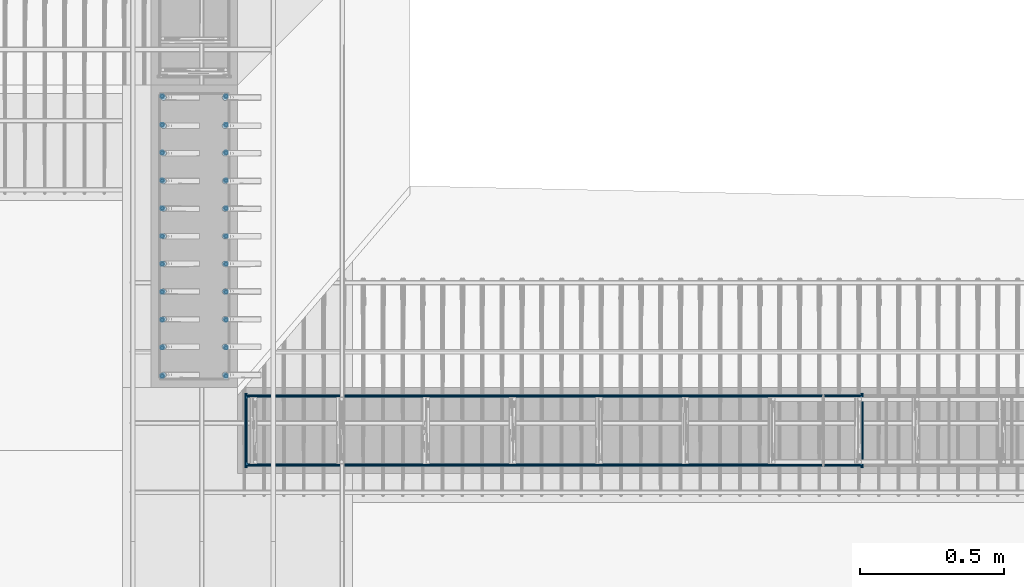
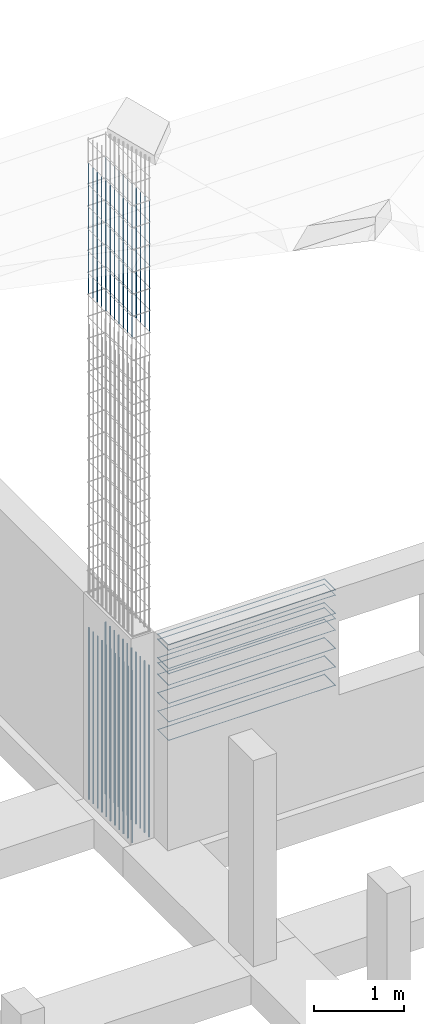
# One storey, part 13 of 15: 4 reinforcing bars.
"""IFC4 building model written with IfcOpenShell, lengths in metres."""

from ifc_helpers import new_model, entity, si_unit, origin_with_axes, place, context, project, spatial, source, transform, mapped, element, save


model = new_model("IFC4")

# Units and contexts
model_context = context("Model", 3, precision=1e-05, world=origin_with_axes())
ifc_project = project(units=[si_unit("LENGTHUNIT", "METRE"), si_unit("AREAUNIT", "SQUARE_METRE"), si_unit("VOLUMEUNIT", "CUBIC_METRE"), si_unit("MASSUNIT", "GRAM", prefix="KILO"), si_unit("TIMEUNIT", "SECOND"), si_unit("PLANEANGLEUNIT", "RADIAN"), si_unit("SOLIDANGLEUNIT", "STERADIAN"), si_unit("THERMODYNAMICTEMPERATUREUNIT", "DEGREE_CELSIUS")], contexts=[model_context])

# Site, building, storey
placement_1 = place(None, origin_with_axes())
site = spatial("IfcSite", under=ifc_project, at=placement_1, Name="Italia", CompositionType="ELEMENT")
building = spatial("IfcBuilding", under=site, at=placement_1, Name="Bifamiliare", CompositionType="ELEMENT")
storey = spatial("IfcBuildingStorey", under=building, at=placement_1, Name="Storey 0", CompositionType="ELEMENT", Elevation=0.0)

# Reinforcing bars
shared_shape_1 = source(origin_with_axes(), model_context, "Body", "AdvancedSweptSolid", [
    entity("IfcSweptDiskSolid", entity("IfcIndexedPolyCurve", entity("IfcCartesianPointList3D", [[10.757, 12.557, 0.0], [10.757, 12.557, 0.466667]]), [entity("IfcLineIndex", [1, 2])], False), 0.01),
])
placement_2 = place(placement_1, origin_with_axes())
reinforcing_bar_1_placement = place(placement_2, origin_with_axes())
element("IfcReinforcingBar", 1, at=reinforcing_bar_1_placement, inside=storey, BarLength=0.466667, CrossSectionArea=0.00031416, NominalDiameter=0.02, context=model_context, shape_type="MappedRepresentation", body=[
    mapped(shared_shape_1, transform((0.0, -0.964001, 0.933333), x_axis=(1.0, 0.0, 0.0), y_axis=(0.0, 1.0, 0.0), z_axis=(0.0, 0.0, 1.0), scale=1.0)),
    mapped(shared_shape_1, transform((0.0, -0.964001, 0.466668), x_axis=(1.0, 0.0, 0.0), y_axis=(0.0, 1.0, 0.0), z_axis=(0.0, 0.0, 1.0), scale=1.0)),
    mapped(shared_shape_1, transform((0.0, -0.964001, 0.0), x_axis=(1.0, 0.0, 0.0), y_axis=(0.0, 1.0, 0.0), z_axis=(0.0, 0.0, 1.0), scale=1.0)),
    mapped(shared_shape_1, transform((0.0, -0.578, 0.0), x_axis=(1.0, 0.0, 0.0), y_axis=(0.0, 1.0, 0.0), z_axis=(0.0, 0.0, 1.0), scale=1.0)),
    mapped(shared_shape_1, transform((0.0, -0.77, 0.0), x_axis=(1.0, 0.0, 0.0), y_axis=(0.0, 1.0, 0.0), z_axis=(0.0, 0.0, 1.0), scale=1.0)),
    mapped(shared_shape_1, transform((0.0, -0.674001, 0.0), x_axis=(1.0, 0.0, 0.0), y_axis=(0.0, 1.0, 0.0), z_axis=(0.0, 0.0, 1.0), scale=1.0)),
    mapped(shared_shape_1, transform((0.0, -0.866, 0.0), x_axis=(1.0, 0.0, 0.0), y_axis=(0.0, 1.0, 0.0), z_axis=(0.0, 0.0, 1.0), scale=1.0)),
    mapped(shared_shape_1, transform((-0.214001, -0.194, 0.466668), x_axis=(1.0, 0.0, 0.0), y_axis=(0.0, 1.0, 0.0), z_axis=(0.0, 0.0, 1.0), scale=1.0)),
    mapped(shared_shape_1, transform((-0.214001, 0.0, 0.466668), x_axis=(1.0, 0.0, 0.0), y_axis=(0.0, 1.0, 0.0), z_axis=(0.0, 0.0, 1.0), scale=1.0)),
    mapped(shared_shape_1, transform((-0.214001, -0.386001, 0.466668), x_axis=(1.0, 0.0, 0.0), y_axis=(0.0, 1.0, 0.0), z_axis=(0.0, 0.0, 1.0), scale=1.0)),
    mapped(shared_shape_1, transform((-0.214001, -0.0980005, 0.466668), x_axis=(1.0, 0.0, 0.0), y_axis=(0.0, 1.0, 0.0), z_axis=(0.0, 0.0, 1.0), scale=1.0)),
    mapped(shared_shape_1, transform((-0.214001, -0.29, 0.466668), x_axis=(1.0, 0.0, 0.0), y_axis=(0.0, 1.0, 0.0), z_axis=(0.0, 0.0, 1.0), scale=1.0)),
    mapped(shared_shape_1, transform((0.0, -0.194, 0.0), x_axis=(1.0, 0.0, 0.0), y_axis=(0.0, 1.0, 0.0), z_axis=(0.0, 0.0, 1.0), scale=1.0)),
    mapped(shared_shape_1, transform((-0.214001, -0.482, 0.466668), x_axis=(1.0, 0.0, 0.0), y_axis=(0.0, 1.0, 0.0), z_axis=(0.0, 0.0, 1.0), scale=1.0)),
    mapped(shared_shape_1, transform((-0.214001, -0.77, 0.466668), x_axis=(1.0, 0.0, 0.0), y_axis=(0.0, 1.0, 0.0), z_axis=(0.0, 0.0, 1.0), scale=1.0)),
    mapped(shared_shape_1, transform((0.0, -0.29, 0.0), x_axis=(1.0, 0.0, 0.0), y_axis=(0.0, 1.0, 0.0), z_axis=(0.0, 0.0, 1.0), scale=1.0)),
    mapped(shared_shape_1, transform((0.0, -0.0980005, 0.0), x_axis=(1.0, 0.0, 0.0), y_axis=(0.0, 1.0, 0.0), z_axis=(0.0, 0.0, 1.0), scale=1.0)),
    mapped(shared_shape_1, transform((0.0, -0.482, 0.0), x_axis=(1.0, 0.0, 0.0), y_axis=(0.0, 1.0, 0.0), z_axis=(0.0, 0.0, 1.0), scale=1.0)),
    mapped(shared_shape_1, transform((-0.214001, -0.482, 0.0), x_axis=(1.0, 0.0, 0.0), y_axis=(0.0, 1.0, 0.0), z_axis=(0.0, 0.0, 1.0), scale=1.0)),
    mapped(shared_shape_1, transform((-0.214001, -0.386001, 0.0), x_axis=(1.0, 0.0, 0.0), y_axis=(0.0, 1.0, 0.0), z_axis=(0.0, 0.0, 1.0), scale=1.0)),
    mapped(shared_shape_1, transform((0.0, -0.386001, 0.0), x_axis=(1.0, 0.0, 0.0), y_axis=(0.0, 1.0, 0.0), z_axis=(0.0, 0.0, 1.0), scale=1.0)),
    mapped(shared_shape_1, transform((-0.214001, -0.674001, 0.466668), x_axis=(1.0, 0.0, 0.0), y_axis=(0.0, 1.0, 0.0), z_axis=(0.0, 0.0, 1.0), scale=1.0)),
    mapped(shared_shape_1, transform((-0.214001, -0.29, 1.4), x_axis=(1.0, 0.0, 0.0), y_axis=(0.0, 1.0, 0.0), z_axis=(0.0, 0.0, 1.0), scale=1.0)),
    mapped(shared_shape_1, transform((-0.214001, -0.0980005, 0.0), x_axis=(1.0, 0.0, 0.0), y_axis=(0.0, 1.0, 0.0), z_axis=(0.0, 0.0, 1.0), scale=1.0)),
    mapped(shared_shape_1, transform((-0.214001, -0.29, 0.0), x_axis=(1.0, 0.0, 0.0), y_axis=(0.0, 1.0, 0.0), z_axis=(0.0, 0.0, 1.0), scale=1.0)),
    mapped(shared_shape_1, transform((-0.214001, 0.0, 1.4), x_axis=(1.0, 0.0, 0.0), y_axis=(0.0, 1.0, 0.0), z_axis=(0.0, 0.0, 1.0), scale=1.0)),
    mapped(shared_shape_1, transform((-0.214001, -0.578, 0.466668), x_axis=(1.0, 0.0, 0.0), y_axis=(0.0, 1.0, 0.0), z_axis=(0.0, 0.0, 1.0), scale=1.0)),
    mapped(shared_shape_1, transform((0.0, 0.0, 0.0), x_axis=(1.0, 0.0, 0.0), y_axis=(0.0, 1.0, 0.0), z_axis=(0.0, 0.0, 1.0), scale=1.0)),
    mapped(shared_shape_1, transform((-0.214001, -0.866, 0.466668), x_axis=(1.0, 0.0, 0.0), y_axis=(0.0, 1.0, 0.0), z_axis=(0.0, 0.0, 1.0), scale=1.0)),
    mapped(shared_shape_1, transform((-0.214001, -0.194, 1.4), x_axis=(1.0, 0.0, 0.0), y_axis=(0.0, 1.0, 0.0), z_axis=(0.0, 0.0, 1.0), scale=1.0)),
    mapped(shared_shape_1, transform((-0.214001, -0.964001, 0.0), x_axis=(1.0, 0.0, 0.0), y_axis=(0.0, 1.0, 0.0), z_axis=(0.0, 0.0, 1.0), scale=1.0)),
    mapped(shared_shape_1, transform((0.0, -0.866, 0.466668), x_axis=(1.0, 0.0, 0.0), y_axis=(0.0, 1.0, 0.0), z_axis=(0.0, 0.0, 1.0), scale=1.0)),
    mapped(shared_shape_1, transform((-0.214001, -0.194, 0.0), x_axis=(1.0, 0.0, 0.0), y_axis=(0.0, 1.0, 0.0), z_axis=(0.0, 0.0, 1.0), scale=1.0)),
    mapped(shared_shape_1, transform((-0.214001, -0.0980005, 1.4), x_axis=(1.0, 0.0, 0.0), y_axis=(0.0, 1.0, 0.0), z_axis=(0.0, 0.0, 1.0), scale=1.0)),
    mapped(shared_shape_1, transform((-0.214001, -0.386001, 1.86667), x_axis=(1.0, 0.0, 0.0), y_axis=(0.0, 1.0, 0.0), z_axis=(0.0, 0.0, 1.0), scale=1.0)),
    mapped(shared_shape_1, transform((-0.214001, -0.29, 0.933333), x_axis=(1.0, 0.0, 0.0), y_axis=(0.0, 1.0, 0.0), z_axis=(0.0, 0.0, 1.0), scale=1.0)),
    mapped(shared_shape_1, transform((-0.214001, -0.964001, 1.86667), x_axis=(1.0, 0.0, 0.0), y_axis=(0.0, 1.0, 0.0), z_axis=(0.0, 0.0, 1.0), scale=1.0)),
    mapped(shared_shape_1, transform((-0.214001, -0.866, 0.0), x_axis=(1.0, 0.0, 0.0), y_axis=(0.0, 1.0, 0.0), z_axis=(0.0, 0.0, 1.0), scale=1.0)),
    mapped(shared_shape_1, transform((0.0, -0.77, 0.466668), x_axis=(1.0, 0.0, 0.0), y_axis=(0.0, 1.0, 0.0), z_axis=(0.0, 0.0, 1.0), scale=1.0)),
    mapped(shared_shape_1, transform((-0.214001, 0.0, 1.86667), x_axis=(1.0, 0.0, 0.0), y_axis=(0.0, 1.0, 0.0), z_axis=(0.0, 0.0, 1.0), scale=1.0)),
    mapped(shared_shape_1, transform((-0.214001, -0.674001, 0.0), x_axis=(1.0, 0.0, 0.0), y_axis=(0.0, 1.0, 0.0), z_axis=(0.0, 0.0, 1.0), scale=1.0)),
    mapped(shared_shape_1, transform((-0.214001, -0.29, 1.86667), x_axis=(1.0, 0.0, 0.0), y_axis=(0.0, 1.0, 0.0), z_axis=(0.0, 0.0, 1.0), scale=1.0)),
    mapped(shared_shape_1, transform((-0.214001, -0.866, 1.86667), x_axis=(1.0, 0.0, 0.0), y_axis=(0.0, 1.0, 0.0), z_axis=(0.0, 0.0, 1.0), scale=1.0)),
    mapped(shared_shape_1, transform((-0.214001, -0.674001, 1.86667), x_axis=(1.0, 0.0, 0.0), y_axis=(0.0, 1.0, 0.0), z_axis=(0.0, 0.0, 1.0), scale=1.0)),
    mapped(shared_shape_1, transform((-0.214001, -0.194, 0.933333), x_axis=(1.0, 0.0, 0.0), y_axis=(0.0, 1.0, 0.0), z_axis=(0.0, 0.0, 1.0), scale=1.0)),
    mapped(shared_shape_1, transform((-0.214001, -0.578, 0.933333), x_axis=(1.0, 0.0, 0.0), y_axis=(0.0, 1.0, 0.0), z_axis=(0.0, 0.0, 1.0), scale=1.0)),
    mapped(shared_shape_1, transform((-0.214001, -0.964001, 0.466668), x_axis=(1.0, 0.0, 0.0), y_axis=(0.0, 1.0, 0.0), z_axis=(0.0, 0.0, 1.0), scale=1.0)),
    mapped(shared_shape_1, transform((0.0, -0.866, 0.933333), x_axis=(1.0, 0.0, 0.0), y_axis=(0.0, 1.0, 0.0), z_axis=(0.0, 0.0, 1.0), scale=1.0)),
    mapped(shared_shape_1, transform((0.0, -0.77, 0.933333), x_axis=(1.0, 0.0, 0.0), y_axis=(0.0, 1.0, 0.0), z_axis=(0.0, 0.0, 1.0), scale=1.0)),
    mapped(shared_shape_1, transform((-0.214001, -0.77, 0.0), x_axis=(1.0, 0.0, 0.0), y_axis=(0.0, 1.0, 0.0), z_axis=(0.0, 0.0, 1.0), scale=1.0)),
    mapped(shared_shape_1, transform((0.0, -0.578, 0.466668), x_axis=(1.0, 0.0, 0.0), y_axis=(0.0, 1.0, 0.0), z_axis=(0.0, 0.0, 1.0), scale=1.0)),
    mapped(shared_shape_1, transform((0.0, -0.674001, 0.466668), x_axis=(1.0, 0.0, 0.0), y_axis=(0.0, 1.0, 0.0), z_axis=(0.0, 0.0, 1.0), scale=1.0)),
    mapped(shared_shape_1, transform((0.0, -0.578, 0.933333), x_axis=(1.0, 0.0, 0.0), y_axis=(0.0, 1.0, 0.0), z_axis=(0.0, 0.0, 1.0), scale=1.0)),
    mapped(shared_shape_1, transform((0.0, -0.674001, 0.933333), x_axis=(1.0, 0.0, 0.0), y_axis=(0.0, 1.0, 0.0), z_axis=(0.0, 0.0, 1.0), scale=1.0)),
    mapped(shared_shape_1, transform((-0.214001, -0.482, 1.4), x_axis=(1.0, 0.0, 0.0), y_axis=(0.0, 1.0, 0.0), z_axis=(0.0, 0.0, 1.0), scale=1.0)),
    mapped(shared_shape_1, transform((-0.214001, 0.0, 0.0), x_axis=(1.0, 0.0, 0.0), y_axis=(0.0, 1.0, 0.0), z_axis=(0.0, 0.0, 1.0), scale=1.0)),
    mapped(shared_shape_1, transform((-0.214001, -0.578, 0.0), x_axis=(1.0, 0.0, 0.0), y_axis=(0.0, 1.0, 0.0), z_axis=(0.0, 0.0, 1.0), scale=1.0)),
    mapped(shared_shape_1, transform((0.0, -0.194, 0.933333), x_axis=(1.0, 0.0, 0.0), y_axis=(0.0, 1.0, 0.0), z_axis=(0.0, 0.0, 1.0), scale=1.0)),
    mapped(shared_shape_1, transform((0.0, -0.0980005, 0.933333), x_axis=(1.0, 0.0, 0.0), y_axis=(0.0, 1.0, 0.0), z_axis=(0.0, 0.0, 1.0), scale=1.0)),
    mapped(shared_shape_1, transform((0.0, 0.0, 0.933333), x_axis=(1.0, 0.0, 0.0), y_axis=(0.0, 1.0, 0.0), z_axis=(0.0, 0.0, 1.0), scale=1.0)),
    mapped(shared_shape_1, transform((0.0, -0.386001, 0.933333), x_axis=(1.0, 0.0, 0.0), y_axis=(0.0, 1.0, 0.0), z_axis=(0.0, 0.0, 1.0), scale=1.0)),
    mapped(shared_shape_1, transform((0.0, -0.29, 0.933333), x_axis=(1.0, 0.0, 0.0), y_axis=(0.0, 1.0, 0.0), z_axis=(0.0, 0.0, 1.0), scale=1.0)),
    mapped(shared_shape_1, transform((0.0, -0.194, 0.466668), x_axis=(1.0, 0.0, 0.0), y_axis=(0.0, 1.0, 0.0), z_axis=(0.0, 0.0, 1.0), scale=1.0)),
    mapped(shared_shape_1, transform((0.0, -0.0980005, 0.466668), x_axis=(1.0, 0.0, 0.0), y_axis=(0.0, 1.0, 0.0), z_axis=(0.0, 0.0, 1.0), scale=1.0)),
    mapped(shared_shape_1, transform((0.0, -0.386001, 0.466668), x_axis=(1.0, 0.0, 0.0), y_axis=(0.0, 1.0, 0.0), z_axis=(0.0, 0.0, 1.0), scale=1.0)),
    mapped(shared_shape_1, transform((0.0, -0.29, 0.466668), x_axis=(1.0, 0.0, 0.0), y_axis=(0.0, 1.0, 0.0), z_axis=(0.0, 0.0, 1.0), scale=1.0)),
    mapped(shared_shape_1, transform((0.0, -0.482, 0.466668), x_axis=(1.0, 0.0, 0.0), y_axis=(0.0, 1.0, 0.0), z_axis=(0.0, 0.0, 1.0), scale=1.0)),
    mapped(shared_shape_1, transform((0.0, 0.0, 0.466668), x_axis=(1.0, 0.0, 0.0), y_axis=(0.0, 1.0, 0.0), z_axis=(0.0, 0.0, 1.0), scale=1.0)),
    mapped(shared_shape_1, transform((0.0, -0.482, 0.933333), x_axis=(1.0, 0.0, 0.0), y_axis=(0.0, 1.0, 0.0), z_axis=(0.0, 0.0, 1.0), scale=1.0)),
    mapped(shared_shape_1, transform((-0.214001, -0.194, 1.86667), x_axis=(1.0, 0.0, 0.0), y_axis=(0.0, 1.0, 0.0), z_axis=(0.0, 0.0, 1.0), scale=1.0)),
    mapped(shared_shape_1, transform((-0.214001, -0.0980005, 1.86667), x_axis=(1.0, 0.0, 0.0), y_axis=(0.0, 1.0, 0.0), z_axis=(0.0, 0.0, 1.0), scale=1.0)),
    mapped(shared_shape_1, transform((-0.214001, -0.482, 1.86667), x_axis=(1.0, 0.0, 0.0), y_axis=(0.0, 1.0, 0.0), z_axis=(0.0, 0.0, 1.0), scale=1.0)),
    mapped(shared_shape_1, transform((-0.214001, -0.578, 1.86667), x_axis=(1.0, 0.0, 0.0), y_axis=(0.0, 1.0, 0.0), z_axis=(0.0, 0.0, 1.0), scale=1.0)),
    mapped(shared_shape_1, transform((-0.214001, -0.386001, 0.933333), x_axis=(1.0, 0.0, 0.0), y_axis=(0.0, 1.0, 0.0), z_axis=(0.0, 0.0, 1.0), scale=1.0)),
    mapped(shared_shape_1, transform((-0.214001, -0.77, 1.86667), x_axis=(1.0, 0.0, 0.0), y_axis=(0.0, 1.0, 0.0), z_axis=(0.0, 0.0, 1.0), scale=1.0)),
    mapped(shared_shape_1, transform((-0.214001, -0.482, 0.933333), x_axis=(1.0, 0.0, 0.0), y_axis=(0.0, 1.0, 0.0), z_axis=(0.0, 0.0, 1.0), scale=1.0)),
    mapped(shared_shape_1, transform((0.0, -0.964001, 1.86667), x_axis=(1.0, 0.0, 0.0), y_axis=(0.0, 1.0, 0.0), z_axis=(0.0, 0.0, 1.0), scale=1.0)),
    mapped(shared_shape_1, transform((-0.214001, -0.77, 0.933333), x_axis=(1.0, 0.0, 0.0), y_axis=(0.0, 1.0, 0.0), z_axis=(0.0, 0.0, 1.0), scale=1.0)),
    mapped(shared_shape_1, transform((-0.214001, -0.386001, 1.4), x_axis=(1.0, 0.0, 0.0), y_axis=(0.0, 1.0, 0.0), z_axis=(0.0, 0.0, 1.0), scale=1.0)),
    mapped(shared_shape_1, transform((-0.214001, -0.964001, 0.933333), x_axis=(1.0, 0.0, 0.0), y_axis=(0.0, 1.0, 0.0), z_axis=(0.0, 0.0, 1.0), scale=1.0)),
    mapped(shared_shape_1, transform((0.0, -0.866, 1.4), x_axis=(1.0, 0.0, 0.0), y_axis=(0.0, 1.0, 0.0), z_axis=(0.0, 0.0, 1.0), scale=1.0)),
    mapped(shared_shape_1, transform((-0.214001, -0.964001, 1.4), x_axis=(1.0, 0.0, 0.0), y_axis=(0.0, 1.0, 0.0), z_axis=(0.0, 0.0, 1.0), scale=1.0)),
    mapped(shared_shape_1, transform((0.0, -0.866, 1.86667), x_axis=(1.0, 0.0, 0.0), y_axis=(0.0, 1.0, 0.0), z_axis=(0.0, 0.0, 1.0), scale=1.0)),
    mapped(shared_shape_1, transform((0.0, -0.964001, 1.4), x_axis=(1.0, 0.0, 0.0), y_axis=(0.0, 1.0, 0.0), z_axis=(0.0, 0.0, 1.0), scale=1.0)),
    mapped(shared_shape_1, transform((-0.214001, -0.0980005, 0.933333), x_axis=(1.0, 0.0, 0.0), y_axis=(0.0, 1.0, 0.0), z_axis=(0.0, 0.0, 1.0), scale=1.0)),
    mapped(shared_shape_1, transform((-0.214001, -0.674001, 0.933333), x_axis=(1.0, 0.0, 0.0), y_axis=(0.0, 1.0, 0.0), z_axis=(0.0, 0.0, 1.0), scale=1.0)),
    mapped(shared_shape_1, transform((-0.214001, -0.674001, 1.4), x_axis=(1.0, 0.0, 0.0), y_axis=(0.0, 1.0, 0.0), z_axis=(0.0, 0.0, 1.0), scale=1.0)),
    mapped(shared_shape_1, transform((-0.214001, 0.0, 0.933333), x_axis=(1.0, 0.0, 0.0), y_axis=(0.0, 1.0, 0.0), z_axis=(0.0, 0.0, 1.0), scale=1.0)),
    mapped(shared_shape_1, transform((-0.214001, -0.578, 1.4), x_axis=(1.0, 0.0, 0.0), y_axis=(0.0, 1.0, 0.0), z_axis=(0.0, 0.0, 1.0), scale=1.0)),
    mapped(shared_shape_1, transform((-0.214001, -0.866, 0.933333), x_axis=(1.0, 0.0, 0.0), y_axis=(0.0, 1.0, 0.0), z_axis=(0.0, 0.0, 1.0), scale=1.0)),
    mapped(shared_shape_1, transform((0.0, -0.0980005, 1.4), x_axis=(1.0, 0.0, 0.0), y_axis=(0.0, 1.0, 0.0), z_axis=(0.0, 0.0, 1.0), scale=1.0)),
    mapped(shared_shape_1, transform((0.0, -0.194, 1.4), x_axis=(1.0, 0.0, 0.0), y_axis=(0.0, 1.0, 0.0), z_axis=(0.0, 0.0, 1.0), scale=1.0)),
    mapped(shared_shape_1, transform((0.0, 0.0, 1.4), x_axis=(1.0, 0.0, 0.0), y_axis=(0.0, 1.0, 0.0), z_axis=(0.0, 0.0, 1.0), scale=1.0)),
    mapped(shared_shape_1, transform((0.0, -0.386001, 1.4), x_axis=(1.0, 0.0, 0.0), y_axis=(0.0, 1.0, 0.0), z_axis=(0.0, 0.0, 1.0), scale=1.0)),
    mapped(shared_shape_1, transform((0.0, -0.29, 1.4), x_axis=(1.0, 0.0, 0.0), y_axis=(0.0, 1.0, 0.0), z_axis=(0.0, 0.0, 1.0), scale=1.0)),
    mapped(shared_shape_1, transform((0.0, -0.674001, 1.4), x_axis=(1.0, 0.0, 0.0), y_axis=(0.0, 1.0, 0.0), z_axis=(0.0, 0.0, 1.0), scale=1.0)),
    mapped(shared_shape_1, transform((0.0, -0.77, 1.4), x_axis=(1.0, 0.0, 0.0), y_axis=(0.0, 1.0, 0.0), z_axis=(0.0, 0.0, 1.0), scale=1.0)),
    mapped(shared_shape_1, transform((0.0, -0.482, 1.4), x_axis=(1.0, 0.0, 0.0), y_axis=(0.0, 1.0, 0.0), z_axis=(0.0, 0.0, 1.0), scale=1.0)),
    mapped(shared_shape_1, transform((0.0, -0.578, 1.4), x_axis=(1.0, 0.0, 0.0), y_axis=(0.0, 1.0, 0.0), z_axis=(0.0, 0.0, 1.0), scale=1.0)),
    mapped(shared_shape_1, transform((-0.214001, -0.77, 1.4), x_axis=(1.0, 0.0, 0.0), y_axis=(0.0, 1.0, 0.0), z_axis=(0.0, 0.0, 1.0), scale=1.0)),
    mapped(shared_shape_1, transform((-0.214001, -0.866, 1.4), x_axis=(1.0, 0.0, 0.0), y_axis=(0.0, 1.0, 0.0), z_axis=(0.0, 0.0, 1.0), scale=1.0)),
    mapped(shared_shape_1, transform((0.0, -0.194, 1.86667), x_axis=(1.0, 0.0, 0.0), y_axis=(0.0, 1.0, 0.0), z_axis=(0.0, 0.0, 1.0), scale=1.0)),
    mapped(shared_shape_1, transform((0.0, -0.29, 1.86667), x_axis=(1.0, 0.0, 0.0), y_axis=(0.0, 1.0, 0.0), z_axis=(0.0, 0.0, 1.0), scale=1.0)),
    mapped(shared_shape_1, transform((0.0, 0.0, 1.86667), x_axis=(1.0, 0.0, 0.0), y_axis=(0.0, 1.0, 0.0), z_axis=(0.0, 0.0, 1.0), scale=1.0)),
    mapped(shared_shape_1, transform((0.0, -0.0980005, 1.86667), x_axis=(1.0, 0.0, 0.0), y_axis=(0.0, 1.0, 0.0), z_axis=(0.0, 0.0, 1.0), scale=1.0)),
    mapped(shared_shape_1, transform((0.0, -0.578, 1.86667), x_axis=(1.0, 0.0, 0.0), y_axis=(0.0, 1.0, 0.0), z_axis=(0.0, 0.0, 1.0), scale=1.0)),
    mapped(shared_shape_1, transform((0.0, -0.77, 1.86667), x_axis=(1.0, 0.0, 0.0), y_axis=(0.0, 1.0, 0.0), z_axis=(0.0, 0.0, 1.0), scale=1.0)),
    mapped(shared_shape_1, transform((0.0, -0.386001, 1.86667), x_axis=(1.0, 0.0, 0.0), y_axis=(0.0, 1.0, 0.0), z_axis=(0.0, 0.0, 1.0), scale=1.0)),
    mapped(shared_shape_1, transform((0.0, -0.482, 1.86667), x_axis=(1.0, 0.0, 0.0), y_axis=(0.0, 1.0, 0.0), z_axis=(0.0, 0.0, 1.0), scale=1.0)),
    mapped(shared_shape_1, transform((0.0, -0.674001, 1.86667), x_axis=(1.0, 0.0, 0.0), y_axis=(0.0, 1.0, 0.0), z_axis=(0.0, 0.0, 1.0), scale=1.0)),
])
shared_shape_2 = source(origin_with_axes(), model_context, "Body", "AdvancedSweptSolid", [
    entity("IfcSweptDiskSolid", entity("IfcIndexedPolyCurve", entity("IfcCartesianPointList3D", [[10.761, 12.561, 6.87095], [10.761, 12.561, 7.29428]]), [entity("IfcLineIndex", [1, 2])], False), 0.006),
])
reinforcing_bar_2_placement = place(placement_2, origin_with_axes())
element("IfcReinforcingBar", 2, at=reinforcing_bar_2_placement, inside=storey, BarLength=0.423334, CrossSectionArea=0.0001131, NominalDiameter=0.012, context=model_context, shape_type="MappedRepresentation", body=[
    mapped(shared_shape_2, transform((0.0, -0.971999, 0.0), x_axis=(1.0, 0.0, 0.0), y_axis=(0.0, 1.0, 0.0), z_axis=(0.0, 0.0, 1.0), scale=1.0)),
    mapped(shared_shape_2, transform((0.0, -0.873199, 0.0), x_axis=(1.0, 0.0, 0.0), y_axis=(0.0, 1.0, 0.0), z_axis=(0.0, 0.0, 1.0), scale=1.0)),
    mapped(shared_shape_2, transform((0.0, -0.679599, 0.0), x_axis=(1.0, 0.0, 0.0), y_axis=(0.0, 1.0, 0.0), z_axis=(0.0, 0.0, 1.0), scale=1.0)),
    mapped(shared_shape_2, transform((0.0, -0.582799, 0.0), x_axis=(1.0, 0.0, 0.0), y_axis=(0.0, 1.0, 0.0), z_axis=(0.0, 0.0, 1.0), scale=1.0)),
    mapped(shared_shape_2, transform((0.0, -0.389199, 0.0), x_axis=(1.0, 0.0, 0.0), y_axis=(0.0, 1.0, 0.0), z_axis=(0.0, 0.0, 1.0), scale=1.0)),
    mapped(shared_shape_2, transform((0.0, -0.776399, 0.0), x_axis=(1.0, 0.0, 0.0), y_axis=(0.0, 1.0, 0.0), z_axis=(0.0, 0.0, 1.0), scale=1.0)),
    mapped(shared_shape_2, transform((0.0, -0.0987988, 0.0), x_axis=(1.0, 0.0, 0.0), y_axis=(0.0, 1.0, 0.0), z_axis=(0.0, 0.0, 1.0), scale=1.0)),
    mapped(shared_shape_2, transform((0.0, -0.485999, 0.0), x_axis=(1.0, 0.0, 0.0), y_axis=(0.0, 1.0, 0.0), z_axis=(0.0, 0.0, 1.0), scale=1.0)),
    mapped(shared_shape_2, transform((0.0, -0.292399, 0.0), x_axis=(1.0, 0.0, 0.0), y_axis=(0.0, 1.0, 0.0), z_axis=(0.0, 0.0, 1.0), scale=1.0)),
    mapped(shared_shape_2, transform((0.0, -0.195599, 0.0), x_axis=(1.0, 0.0, 0.0), y_axis=(0.0, 1.0, 0.0), z_axis=(0.0, 0.0, 1.0), scale=1.0)),
    mapped(shared_shape_2, transform((0.0, 0.0, 0.0), x_axis=(1.0, 0.0, 0.0), y_axis=(0.0, 1.0, 0.0), z_axis=(0.0, 0.0, 1.0), scale=1.0)),
    mapped(shared_shape_2, transform((-0.221999, 0.0, 0.0), x_axis=(1.0, 0.0, 0.0), y_axis=(0.0, 1.0, 0.0), z_axis=(0.0, 0.0, 1.0), scale=1.0)),
    mapped(shared_shape_2, transform((-0.221999, -0.1956, 0.0), x_axis=(1.0, 0.0, 0.0), y_axis=(0.0, 1.0, 0.0), z_axis=(0.0, 0.0, 1.0), scale=1.0)),
    mapped(shared_shape_2, transform((-0.221999, -0.292399, 0.0), x_axis=(1.0, 0.0, 0.0), y_axis=(0.0, 1.0, 0.0), z_axis=(0.0, 0.0, 1.0), scale=1.0)),
    mapped(shared_shape_2, transform((-0.221999, -0.485999, 0.0), x_axis=(1.0, 0.0, 0.0), y_axis=(0.0, 1.0, 0.0), z_axis=(0.0, 0.0, 1.0), scale=1.0)),
    mapped(shared_shape_2, transform((-0.221999, -0.0987988, 0.0), x_axis=(1.0, 0.0, 0.0), y_axis=(0.0, 1.0, 0.0), z_axis=(0.0, 0.0, 1.0), scale=1.0)),
    mapped(shared_shape_2, transform((-0.221999, -0.7764, 0.0), x_axis=(1.0, 0.0, 0.0), y_axis=(0.0, 1.0, 0.0), z_axis=(0.0, 0.0, 1.0), scale=1.0)),
    mapped(shared_shape_2, transform((-0.221999, -0.389199, 0.0), x_axis=(1.0, 0.0, 0.0), y_axis=(0.0, 1.0, 0.0), z_axis=(0.0, 0.0, 1.0), scale=1.0)),
    mapped(shared_shape_2, transform((-0.221999, -0.582799, 0.0), x_axis=(1.0, 0.0, 0.0), y_axis=(0.0, 1.0, 0.0), z_axis=(0.0, 0.0, 1.0), scale=1.0)),
    mapped(shared_shape_2, transform((-0.221999, -0.679599, 0.0), x_axis=(1.0, 0.0, 0.0), y_axis=(0.0, 1.0, 0.0), z_axis=(0.0, 0.0, 1.0), scale=1.0)),
    mapped(shared_shape_2, transform((-0.221999, -0.873199, 0.0), x_axis=(1.0, 0.0, 0.0), y_axis=(0.0, 1.0, 0.0), z_axis=(0.0, 0.0, 1.0), scale=1.0)),
    mapped(shared_shape_2, transform((-0.221999, -0.971999, 0.0), x_axis=(1.0, 0.0, 0.0), y_axis=(0.0, 1.0, 0.0), z_axis=(0.0, 0.0, 1.0), scale=1.0)),
])
shared_shape_3 = source(origin_with_axes(), model_context, "Body", "AdvancedSweptSolid", [
    entity("IfcSweptDiskSolid", entity("IfcIndexedPolyCurve", entity("IfcCartesianPointList3D", [[10.761, 12.561, 7.29428], [10.761, 12.561, 7.74238]]), [entity("IfcLineIndex", [1, 2])], False), 0.006),
])
reinforcing_bar_3_placement = place(placement_2, origin_with_axes())
element("IfcReinforcingBar", 3, at=reinforcing_bar_3_placement, inside=storey, BarLength=0.448097, CrossSectionArea=0.0001131, NominalDiameter=0.012, context=model_context, shape_type="MappedRepresentation", body=[
    mapped(shared_shape_3, transform((0.0, -0.971999, 0.448097), x_axis=(1.0, 0.0, 0.0), y_axis=(0.0, 1.0, 0.0), z_axis=(0.0, 0.0, 1.0), scale=1.0)),
    mapped(shared_shape_3, transform((-0.221999, 0.0, 0.0), x_axis=(1.0, 0.0, 0.0), y_axis=(0.0, 1.0, 0.0), z_axis=(0.0, 0.0, 1.0), scale=1.0)),
    mapped(shared_shape_3, transform((-0.221999, -0.292399, 0.0), x_axis=(1.0, 0.0, 0.0), y_axis=(0.0, 1.0, 0.0), z_axis=(0.0, 0.0, 1.0), scale=1.0)),
    mapped(shared_shape_3, transform((-0.221999, -0.0987988, 0.0), x_axis=(1.0, 0.0, 0.0), y_axis=(0.0, 1.0, 0.0), z_axis=(0.0, 0.0, 1.0), scale=1.0)),
    mapped(shared_shape_3, transform((-0.221999, -0.1956, 0.0), x_axis=(1.0, 0.0, 0.0), y_axis=(0.0, 1.0, 0.0), z_axis=(0.0, 0.0, 1.0), scale=1.0)),
    mapped(shared_shape_3, transform((0.0, -0.971999, 0.0), x_axis=(1.0, 0.0, 0.0), y_axis=(0.0, 1.0, 0.0), z_axis=(0.0, 0.0, 1.0), scale=1.0)),
    mapped(shared_shape_3, transform((-0.221999, -0.292399, 0.896192), x_axis=(1.0, 0.0, 0.0), y_axis=(0.0, 1.0, 0.0), z_axis=(0.0, 0.0, 1.0), scale=1.0)),
    mapped(shared_shape_3, transform((-0.221999, 0.0, 0.896192), x_axis=(1.0, 0.0, 0.0), y_axis=(0.0, 1.0, 0.0), z_axis=(0.0, 0.0, 1.0), scale=1.0)),
    mapped(shared_shape_3, transform((0.0, -0.582799, 0.0), x_axis=(1.0, 0.0, 0.0), y_axis=(0.0, 1.0, 0.0), z_axis=(0.0, 0.0, 1.0), scale=1.0)),
    mapped(shared_shape_3, transform((-0.221999, -0.389199, 0.0), x_axis=(1.0, 0.0, 0.0), y_axis=(0.0, 1.0, 0.0), z_axis=(0.0, 0.0, 1.0), scale=1.0)),
    mapped(shared_shape_3, transform((-0.221999, -0.389199, 0.896192), x_axis=(1.0, 0.0, 0.0), y_axis=(0.0, 1.0, 0.0), z_axis=(0.0, 0.0, 1.0), scale=1.0)),
    mapped(shared_shape_3, transform((-0.221999, -0.485999, 0.0), x_axis=(1.0, 0.0, 0.0), y_axis=(0.0, 1.0, 0.0), z_axis=(0.0, 0.0, 1.0), scale=1.0)),
    mapped(shared_shape_3, transform((0.0, -0.485999, 0.0), x_axis=(1.0, 0.0, 0.0), y_axis=(0.0, 1.0, 0.0), z_axis=(0.0, 0.0, 1.0), scale=1.0)),
    mapped(shared_shape_3, transform((0.0, -0.195599, 0.0), x_axis=(1.0, 0.0, 0.0), y_axis=(0.0, 1.0, 0.0), z_axis=(0.0, 0.0, 1.0), scale=1.0)),
    mapped(shared_shape_3, transform((0.0, -0.679599, 0.0), x_axis=(1.0, 0.0, 0.0), y_axis=(0.0, 1.0, 0.0), z_axis=(0.0, 0.0, 1.0), scale=1.0)),
    mapped(shared_shape_3, transform((0.0, -0.389199, 0.0), x_axis=(1.0, 0.0, 0.0), y_axis=(0.0, 1.0, 0.0), z_axis=(0.0, 0.0, 1.0), scale=1.0)),
    mapped(shared_shape_3, transform((0.0, -0.0987988, 0.0), x_axis=(1.0, 0.0, 0.0), y_axis=(0.0, 1.0, 0.0), z_axis=(0.0, 0.0, 1.0), scale=1.0)),
    mapped(shared_shape_3, transform((-0.221999, -0.0987988, 0.896192), x_axis=(1.0, 0.0, 0.0), y_axis=(0.0, 1.0, 0.0), z_axis=(0.0, 0.0, 1.0), scale=1.0)),
    mapped(shared_shape_3, transform((0.0, -0.292399, 0.0), x_axis=(1.0, 0.0, 0.0), y_axis=(0.0, 1.0, 0.0), z_axis=(0.0, 0.0, 1.0), scale=1.0)),
    mapped(shared_shape_3, transform((0.0, -0.776399, 0.0), x_axis=(1.0, 0.0, 0.0), y_axis=(0.0, 1.0, 0.0), z_axis=(0.0, 0.0, 1.0), scale=1.0)),
    mapped(shared_shape_3, transform((-0.221999, -0.1956, 0.896192), x_axis=(1.0, 0.0, 0.0), y_axis=(0.0, 1.0, 0.0), z_axis=(0.0, 0.0, 1.0), scale=1.0)),
    mapped(shared_shape_3, transform((-0.221999, -0.485999, 0.896192), x_axis=(1.0, 0.0, 0.0), y_axis=(0.0, 1.0, 0.0), z_axis=(0.0, 0.0, 1.0), scale=1.0)),
    mapped(shared_shape_3, transform((0.0, 0.0, 0.0), x_axis=(1.0, 0.0, 0.0), y_axis=(0.0, 1.0, 0.0), z_axis=(0.0, 0.0, 1.0), scale=1.0)),
    mapped(shared_shape_3, transform((-0.221999, -0.873199, 0.896192), x_axis=(1.0, 0.0, 0.0), y_axis=(0.0, 1.0, 0.0), z_axis=(0.0, 0.0, 1.0), scale=1.0)),
    mapped(shared_shape_3, transform((-0.221999, -0.679599, 0.896192), x_axis=(1.0, 0.0, 0.0), y_axis=(0.0, 1.0, 0.0), z_axis=(0.0, 0.0, 1.0), scale=1.0)),
    mapped(shared_shape_3, transform((-0.221999, -0.582799, 0.0), x_axis=(1.0, 0.0, 0.0), y_axis=(0.0, 1.0, 0.0), z_axis=(0.0, 0.0, 1.0), scale=1.0)),
    mapped(shared_shape_3, transform((-0.221999, -0.873199, 0.0), x_axis=(1.0, 0.0, 0.0), y_axis=(0.0, 1.0, 0.0), z_axis=(0.0, 0.0, 1.0), scale=1.0)),
    mapped(shared_shape_3, transform((0.0, -0.873199, 0.0), x_axis=(1.0, 0.0, 0.0), y_axis=(0.0, 1.0, 0.0), z_axis=(0.0, 0.0, 1.0), scale=1.0)),
    mapped(shared_shape_3, transform((-0.221999, -0.971999, 0.896192), x_axis=(1.0, 0.0, 0.0), y_axis=(0.0, 1.0, 0.0), z_axis=(0.0, 0.0, 1.0), scale=1.0)),
    mapped(shared_shape_3, transform((-0.221999, -0.7764, 0.448097), x_axis=(1.0, 0.0, 0.0), y_axis=(0.0, 1.0, 0.0), z_axis=(0.0, 0.0, 1.0), scale=1.0)),
    mapped(shared_shape_3, transform((-0.221999, -0.7764, 0.0), x_axis=(1.0, 0.0, 0.0), y_axis=(0.0, 1.0, 0.0), z_axis=(0.0, 0.0, 1.0), scale=1.0)),
    mapped(shared_shape_3, transform((-0.221999, -0.971999, 0.448097), x_axis=(1.0, 0.0, 0.0), y_axis=(0.0, 1.0, 0.0), z_axis=(0.0, 0.0, 1.0), scale=1.0)),
    mapped(shared_shape_3, transform((-0.221999, -0.971999, 0.0), x_axis=(1.0, 0.0, 0.0), y_axis=(0.0, 1.0, 0.0), z_axis=(0.0, 0.0, 1.0), scale=1.0)),
    mapped(shared_shape_3, transform((0.0, -0.873199, 0.448097), x_axis=(1.0, 0.0, 0.0), y_axis=(0.0, 1.0, 0.0), z_axis=(0.0, 0.0, 1.0), scale=1.0)),
    mapped(shared_shape_3, transform((0.0, -0.679599, 0.448097), x_axis=(1.0, 0.0, 0.0), y_axis=(0.0, 1.0, 0.0), z_axis=(0.0, 0.0, 1.0), scale=1.0)),
    mapped(shared_shape_3, transform((0.0, -0.776399, 0.448097), x_axis=(1.0, 0.0, 0.0), y_axis=(0.0, 1.0, 0.0), z_axis=(0.0, 0.0, 1.0), scale=1.0)),
    mapped(shared_shape_3, transform((0.0, -0.873199, 0.896192), x_axis=(1.0, 0.0, 0.0), y_axis=(0.0, 1.0, 0.0), z_axis=(0.0, 0.0, 1.0), scale=1.0)),
    mapped(shared_shape_3, transform((-0.221999, -0.679599, 0.0), x_axis=(1.0, 0.0, 0.0), y_axis=(0.0, 1.0, 0.0), z_axis=(0.0, 0.0, 1.0), scale=1.0)),
    mapped(shared_shape_3, transform((0.0, -0.195599, 0.448097), x_axis=(1.0, 0.0, 0.0), y_axis=(0.0, 1.0, 0.0), z_axis=(0.0, 0.0, 1.0), scale=1.0)),
    mapped(shared_shape_3, transform((0.0, 0.0, 0.448097), x_axis=(1.0, 0.0, 0.0), y_axis=(0.0, 1.0, 0.0), z_axis=(0.0, 0.0, 1.0), scale=1.0)),
    mapped(shared_shape_3, transform((0.0, -0.0987988, 0.448097), x_axis=(1.0, 0.0, 0.0), y_axis=(0.0, 1.0, 0.0), z_axis=(0.0, 0.0, 1.0), scale=1.0)),
    mapped(shared_shape_3, transform((0.0, -0.292399, 0.448097), x_axis=(1.0, 0.0, 0.0), y_axis=(0.0, 1.0, 0.0), z_axis=(0.0, 0.0, 1.0), scale=1.0)),
    mapped(shared_shape_3, transform((0.0, -0.389199, 0.448097), x_axis=(1.0, 0.0, 0.0), y_axis=(0.0, 1.0, 0.0), z_axis=(0.0, 0.0, 1.0), scale=1.0)),
    mapped(shared_shape_3, transform((0.0, -0.485999, 0.448097), x_axis=(1.0, 0.0, 0.0), y_axis=(0.0, 1.0, 0.0), z_axis=(0.0, 0.0, 1.0), scale=1.0)),
    mapped(shared_shape_3, transform((0.0, -0.582799, 0.448097), x_axis=(1.0, 0.0, 0.0), y_axis=(0.0, 1.0, 0.0), z_axis=(0.0, 0.0, 1.0), scale=1.0)),
    mapped(shared_shape_3, transform((0.0, -0.971999, 0.896192), x_axis=(1.0, 0.0, 0.0), y_axis=(0.0, 1.0, 0.0), z_axis=(0.0, 0.0, 1.0), scale=1.0)),
    mapped(shared_shape_3, transform((-0.221999, -0.7764, 0.896192), x_axis=(1.0, 0.0, 0.0), y_axis=(0.0, 1.0, 0.0), z_axis=(0.0, 0.0, 1.0), scale=1.0)),
    mapped(shared_shape_3, transform((-0.221999, -0.873199, 0.448097), x_axis=(1.0, 0.0, 0.0), y_axis=(0.0, 1.0, 0.0), z_axis=(0.0, 0.0, 1.0), scale=1.0)),
    mapped(shared_shape_3, transform((0.0, -0.679599, 0.896192), x_axis=(1.0, 0.0, 0.0), y_axis=(0.0, 1.0, 0.0), z_axis=(0.0, 0.0, 1.0), scale=1.0)),
    mapped(shared_shape_3, transform((0.0, -0.776399, 0.896192), x_axis=(1.0, 0.0, 0.0), y_axis=(0.0, 1.0, 0.0), z_axis=(0.0, 0.0, 1.0), scale=1.0)),
    mapped(shared_shape_3, transform((-0.221999, -0.582799, 0.448097), x_axis=(1.0, 0.0, 0.0), y_axis=(0.0, 1.0, 0.0), z_axis=(0.0, 0.0, 1.0), scale=1.0)),
    mapped(shared_shape_3, transform((-0.221999, -0.292399, 0.448097), x_axis=(1.0, 0.0, 0.0), y_axis=(0.0, 1.0, 0.0), z_axis=(0.0, 0.0, 1.0), scale=1.0)),
    mapped(shared_shape_3, transform((-0.221999, -0.582799, 0.896192), x_axis=(1.0, 0.0, 0.0), y_axis=(0.0, 1.0, 0.0), z_axis=(0.0, 0.0, 1.0), scale=1.0)),
    mapped(shared_shape_3, transform((-0.221999, -0.485999, 0.448097), x_axis=(1.0, 0.0, 0.0), y_axis=(0.0, 1.0, 0.0), z_axis=(0.0, 0.0, 1.0), scale=1.0)),
    mapped(shared_shape_3, transform((-0.221999, -0.389199, 0.448097), x_axis=(1.0, 0.0, 0.0), y_axis=(0.0, 1.0, 0.0), z_axis=(0.0, 0.0, 1.0), scale=1.0)),
    mapped(shared_shape_3, transform((-0.221999, -0.679599, 0.448097), x_axis=(1.0, 0.0, 0.0), y_axis=(0.0, 1.0, 0.0), z_axis=(0.0, 0.0, 1.0), scale=1.0)),
    mapped(shared_shape_3, transform((0.0, -0.292399, 0.896192), x_axis=(1.0, 0.0, 0.0), y_axis=(0.0, 1.0, 0.0), z_axis=(0.0, 0.0, 1.0), scale=1.0)),
    mapped(shared_shape_3, transform((0.0, -0.389199, 0.896192), x_axis=(1.0, 0.0, 0.0), y_axis=(0.0, 1.0, 0.0), z_axis=(0.0, 0.0, 1.0), scale=1.0)),
    mapped(shared_shape_3, transform((0.0, -0.485999, 0.896192), x_axis=(1.0, 0.0, 0.0), y_axis=(0.0, 1.0, 0.0), z_axis=(0.0, 0.0, 1.0), scale=1.0)),
    mapped(shared_shape_3, transform((0.0, -0.582799, 0.896192), x_axis=(1.0, 0.0, 0.0), y_axis=(0.0, 1.0, 0.0), z_axis=(0.0, 0.0, 1.0), scale=1.0)),
    mapped(shared_shape_3, transform((-0.221999, -0.1956, 0.448097), x_axis=(1.0, 0.0, 0.0), y_axis=(0.0, 1.0, 0.0), z_axis=(0.0, 0.0, 1.0), scale=1.0)),
    mapped(shared_shape_3, transform((0.0, -0.0987988, 0.896192), x_axis=(1.0, 0.0, 0.0), y_axis=(0.0, 1.0, 0.0), z_axis=(0.0, 0.0, 1.0), scale=1.0)),
    mapped(shared_shape_3, transform((0.0, -0.195599, 0.896192), x_axis=(1.0, 0.0, 0.0), y_axis=(0.0, 1.0, 0.0), z_axis=(0.0, 0.0, 1.0), scale=1.0)),
    mapped(shared_shape_3, transform((-0.221999, -0.0987988, 0.448097), x_axis=(1.0, 0.0, 0.0), y_axis=(0.0, 1.0, 0.0), z_axis=(0.0, 0.0, 1.0), scale=1.0)),
    mapped(shared_shape_3, transform((0.0, 0.0, 0.896192), x_axis=(1.0, 0.0, 0.0), y_axis=(0.0, 1.0, 0.0), z_axis=(0.0, 0.0, 1.0), scale=1.0)),
    mapped(shared_shape_3, transform((-0.221999, 0.0, 0.448097), x_axis=(1.0, 0.0, 0.0), y_axis=(0.0, 1.0, 0.0), z_axis=(0.0, 0.0, 1.0), scale=1.0)),
])
shared_shape_4 = source(origin_with_axes(), model_context, "Body", "AdvancedSweptSolid", [
    entity("IfcSweptDiskSolid", entity("IfcIndexedPolyCurve", entity("IfcCartesianPointList3D", [[12.97, 11.53, 1.475], [12.97, 11.29, 1.475], [12.9692, 11.2862, 1.475], [12.9671, 11.2829, 1.475], [12.9638, 11.2808, 1.475], [12.96, 11.28, 1.475], [10.84, 11.28, 1.475], [10.8362, 11.2808, 1.475], [10.8329, 11.2829, 1.475], [10.8308, 11.2862, 1.475], [10.83, 11.29, 1.475], [10.83, 11.53, 1.475]]), [entity("IfcLineIndex", [1, 2]), entity("IfcLineIndex", [2, 3]), entity("IfcLineIndex", [3, 4]), entity("IfcLineIndex", [4, 5]), entity("IfcLineIndex", [5, 6]), entity("IfcLineIndex", [6, 7]), entity("IfcLineIndex", [7, 8]), entity("IfcLineIndex", [8, 9]), entity("IfcLineIndex", [9, 10]), entity("IfcLineIndex", [10, 11]), entity("IfcLineIndex", [11, 12])], False), 0.005),
])
reinforcing_bar_4_placement = place(placement_2, origin_with_axes())
element("IfcReinforcingBar", 4, at=reinforcing_bar_4_placement, inside=storey, BarLength=2.63121, CrossSectionArea=7.854e-05, NominalDiameter=0.01, context=model_context, shape_type="MappedRepresentation", body=[
    mapped(shared_shape_4, transform((0.0, 0.0, 0.5), x_axis=(1.0, 0.0, 0.0), y_axis=(0.0, 1.0, 0.0), z_axis=(0.0, 0.0, 1.0), scale=1.0)),
    mapped(shared_shape_4, transform((0.0, 0.0, 0.75), x_axis=(1.0, 0.0, 0.0), y_axis=(0.0, 1.0, 0.0), z_axis=(0.0, 0.0, 1.0), scale=1.0)),
    mapped(shared_shape_4, transform((23.8, 22.8, 0.0), x_axis=(-1.0, 0.0, 0.0), y_axis=(0.0, -1.0, 0.0), z_axis=(0.0, 0.0, 1.0), scale=1.0)),
    mapped(shared_shape_4, transform((0.0, 0.0, 0.0), x_axis=(1.0, 0.0, 0.0), y_axis=(0.0, 1.0, 0.0), z_axis=(0.0, 0.0, 1.0), scale=1.0)),
    mapped(shared_shape_4, transform((23.8, 22.8, 0.25), x_axis=(-1.0, 0.0, 0.0), y_axis=(0.0, -1.0, 0.0), z_axis=(0.0, 0.0, 1.0), scale=1.0)),
    mapped(shared_shape_4, transform((0.0, 0.0, 0.25), x_axis=(1.0, 0.0, 0.0), y_axis=(0.0, 1.0, 0.0), z_axis=(0.0, 0.0, 1.0), scale=1.0)),
    mapped(shared_shape_4, transform((23.8, 22.8, 0.5), x_axis=(-1.0, 0.0, 0.0), y_axis=(0.0, -1.0, 0.0), z_axis=(0.0, 0.0, 1.0), scale=1.0)),
    mapped(shared_shape_4, transform((23.8, 22.8, 0.75), x_axis=(-1.0, 0.0, 0.0), y_axis=(0.0, -1.0, 0.0), z_axis=(0.0, 0.0, 1.0), scale=1.0)),
    mapped(shared_shape_4, transform((0.0, 0.0, 1.225), x_axis=(1.0, 0.0, 0.0), y_axis=(0.0, 1.0, 0.0), z_axis=(0.0, 0.0, 1.0), scale=1.0)),
    mapped(shared_shape_4, transform((0.0, 0.0, 1.295), x_axis=(1.0, 0.0, 0.0), y_axis=(0.0, 1.0, 0.0), z_axis=(0.0, 0.0, 1.0), scale=1.0)),
    mapped(shared_shape_4, transform((23.8, 22.8, 0.905), x_axis=(-1.0, 0.0, 0.0), y_axis=(0.0, -1.0, 0.0), z_axis=(0.0, 0.0, 1.0), scale=1.0)),
    mapped(shared_shape_4, transform((0.0, 0.0, 0.905), x_axis=(1.0, 0.0, 0.0), y_axis=(0.0, 1.0, 0.0), z_axis=(0.0, 0.0, 1.0), scale=1.0)),
    mapped(shared_shape_4, transform((23.8, 22.8, 0.975), x_axis=(-1.0, 0.0, 0.0), y_axis=(0.0, -1.0, 0.0), z_axis=(0.0, 0.0, 1.0), scale=1.0)),
    mapped(shared_shape_4, transform((0.0, 0.0, 0.975), x_axis=(1.0, 0.0, 0.0), y_axis=(0.0, 1.0, 0.0), z_axis=(0.0, 0.0, 1.0), scale=1.0)),
    mapped(shared_shape_4, transform((23.8, 22.8, 1.225), x_axis=(-1.0, 0.0, 0.0), y_axis=(0.0, -1.0, 0.0), z_axis=(0.0, 0.0, 1.0), scale=1.0)),
    mapped(shared_shape_4, transform((23.8, 22.8, 1.295), x_axis=(-1.0, 0.0, 0.0), y_axis=(0.0, -1.0, 0.0), z_axis=(0.0, 0.0, 1.0), scale=1.0)),
])

save(model, "model.ifc")
